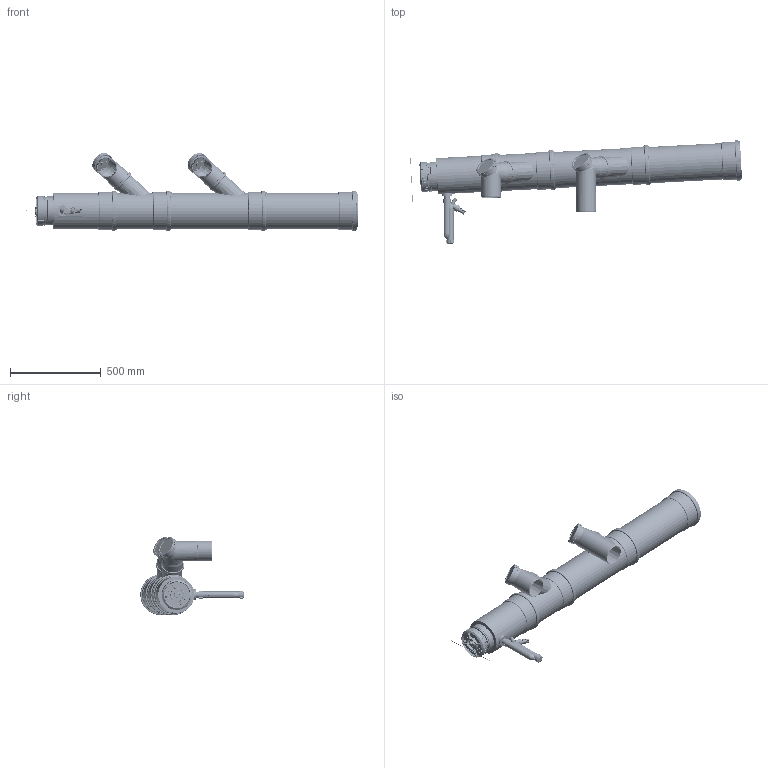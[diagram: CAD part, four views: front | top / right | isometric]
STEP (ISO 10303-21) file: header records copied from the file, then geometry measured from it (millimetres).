
FILE_DESCRIPTION((''),'2;1');
FILE_NAME('20-5511113201_ASM','2022-02-18T10:53:01',('ctgas'),('Centrotherm'),'CREO PARAMETRIC BY PTC INC, 2020281','CREO PARAMETRIC BY PTC INC, 2020281','');
FILE_SCHEMA(('AP242_MANAGED_MODEL_BASED_3D_ENGINEERING_MIM_LF { 1 0 10303 442 1 1 4 }'));
Length unit declared in the file: millimetre
Products named in the file (31): 20-1100006580_1000_AF0; 20-1100004790_AF0; 20-1100008878_ASM; 34015000; 20-1100008879_ASM; 20-1100006580_0300_AF0; 20-1100004790_AF4; 20-1100006904_ASM; 20-1100006903_ASM; 20-1100006580_0500; 20-1100006581_0500_ASM; 20-1100000544; 20-0002073000; 20-0034033000; 20-0034013010; 20-1100002663_ASM; 20-1100000543; 20-1100002662_ASM; 20-1100006580_0250_AF0; 20-1100004117; 20-1100003803_GERADE; 20-0002700023; 20-1100006750_ASM; 20-1100003804; 20-1100002691; 45110002; 20-1100006621_ASM; 45600054; 45600015; 80600024_ASM; 20-5511113201_ASM
Assembly tree (36 placements, depth 4):
  20-5511113201_ASM
    20-1100008879_ASM
      20-1100008878_ASM
        20-1100006580_1000_AF0
        20-1100004790_AF0
      34015000
    20-1100006903_ASM
      20-1100006904_ASM
        20-1100006580_0300_AF0
        20-1100004790_AF4
      34015000
    20-1100006581_0500_ASM
      20-1100006580_0500
      34015000
    20-1100002663_ASM
      20-1100000544
      20-0002073000
      20-0034033000
      20-0034013010
    20-1100002662_ASM
      20-1100000543
      20-0002073000
      20-0034033000
      20-0034013010
    20-1100006621_ASM
      20-1100006750_ASM
        20-1100006580_0250_AF0
        20-1100004117
        20-1100003803_GERADE
        20-0002700023
      34015000
      20-1100003804
      20-1100002691
      45110002
    80600024_ASM
      45600054
      45600015
Bounding box: 1829.75 x 570.01 x 430.28 mm (x, y, z)
Volume: 6800991.6 mm3; surface area: 3762588 mm2
Topology: 26 solids, 34 shells, 9381 faces, 24914 edges, 15956 vertices
Faces by surface type: plane 6765, cylinder 933, bspline 568, cone 480, torus 442, sphere 172, extrusion 21
Entity records: 428338 total; most frequent: CARTESIAN_POINT 91489, ORIENTED_EDGE 47458, DIRECTION 41575, PRESENTATION_STYLE_ASSIGNMENT 30171, STYLED_ITEM 30171, EDGE_CURVE 23761, CURVE_STYLE 23396, VECTOR 17801
